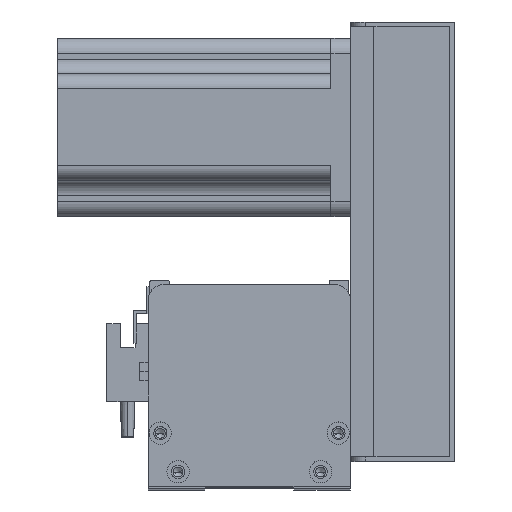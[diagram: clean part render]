
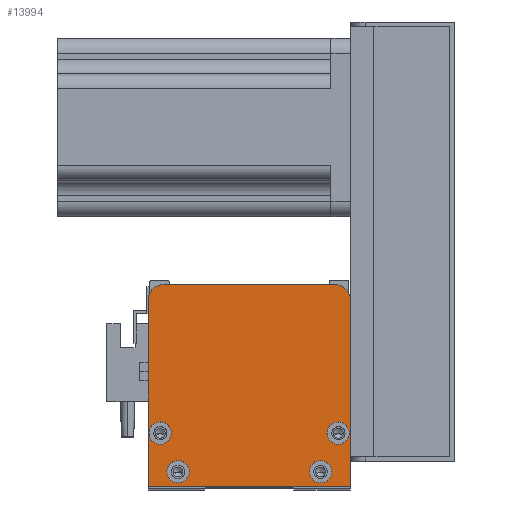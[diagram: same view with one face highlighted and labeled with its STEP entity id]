
A CAD part, top view. The second image highlights one B-rep face of the part: STEP entity #13994.
In plain terms, the highlighted planar face has unit normal (0, 0, 1).
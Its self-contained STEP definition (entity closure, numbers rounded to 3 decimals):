
#251 = AXIS2_PLACEMENT_3D ( 'NONE', #16063, #21825, #4271 ) ;
#494 = EDGE_CURVE ( 'NONE', #2912, #19276, #14405, .T. ) ;
#703 = CARTESIAN_POINT ( 'NONE',  ( 58., 5., 64. ) ) ;
#958 = CARTESIAN_POINT ( 'NONE',  ( 68., 0., 64. ) ) ;
#1011 = VERTEX_POINT ( 'NONE', #16601 ) ;
#1213 = VERTEX_POINT ( 'NONE', #15441 ) ;
#1302 = VERTEX_POINT ( 'NONE', #9667 ) ;
#1611 = ORIENTED_EDGE ( 'NONE', *, *, #8101, .F. ) ;
#1649 = CARTESIAN_POINT ( 'NONE',  ( 60.25, 18., 64. ) ) ;
#2119 = DIRECTION ( 'NONE',  ( 1., 0., 0. ) ) ;
#2391 = CIRCLE ( 'NONE', #251, 3.75 ) ;
#2486 = ORIENTED_EDGE ( 'NONE', *, *, #17549, .T. ) ;
#2894 = AXIS2_PLACEMENT_3D ( 'NONE', #5172, #5249, #9250 ) ;
#2912 = VERTEX_POINT ( 'NONE', #11950 ) ;
#3380 = CARTESIAN_POINT ( 'NONE',  ( 64., 18., 64. ) ) ;
#3615 = AXIS2_PLACEMENT_3D ( 'NONE', #18337, #16499, #10678 ) ;
#3635 = ORIENTED_EDGE ( 'NONE', *, *, #23426, .F. ) ;
#3881 = ORIENTED_EDGE ( 'NONE', *, *, #18605, .F. ) ;
#4271 = DIRECTION ( 'NONE',  ( 1., 0., 0. ) ) ;
#4427 = ORIENTED_EDGE ( 'NONE', *, *, #18276, .T. ) ;
#5085 = DIRECTION ( 'NONE',  ( 0., 0., 1. ) ) ;
#5138 = FACE_BOUND ( 'NONE', #10093, .T. ) ;
#5172 = CARTESIAN_POINT ( 'NONE',  ( 64., 18., 64. ) ) ;
#5249 = DIRECTION ( 'NONE',  ( 0., 0., 1. ) ) ;
#5385 = PLANE ( 'NONE',  #19673 ) ;
#5758 = CIRCLE ( 'NONE', #2894, 3.75 ) ;
#5898 = AXIS2_PLACEMENT_3D ( 'NONE', #15379, #23001, #15464 ) ;
#6065 = AXIS2_PLACEMENT_3D ( 'NONE', #6985, #6824, #12615 ) ;
#6361 = LINE ( 'NONE', #958, #21456 ) ;
#6689 = CARTESIAN_POINT ( 'NONE',  ( 63., 68., 64. ) ) ;
#6824 = DIRECTION ( 'NONE',  ( 0., 0., 1. ) ) ;
#6985 = CARTESIAN_POINT ( 'NONE',  ( 58., 5., 64. ) ) ;
#7075 = EDGE_CURVE ( 'NONE', #10710, #7850, #10830, .T. ) ;
#7183 = CARTESIAN_POINT ( 'NONE',  ( 0., 0., 64. ) ) ;
#7325 = EDGE_LOOP ( 'NONE', ( #15780, #13987 ) ) ;
#7754 = EDGE_LOOP ( 'NONE', ( #1611, #3635 ) ) ;
#7774 = VERTEX_POINT ( 'NONE', #16829 ) ;
#7850 = VERTEX_POINT ( 'NONE', #7183 ) ;
#7861 = FACE_BOUND ( 'NONE', #18867, .T. ) ;
#7961 = EDGE_LOOP ( 'NONE', ( #2486, #4427, #14927, #12471, #10771, #9132 ) ) ;
#8101 = EDGE_CURVE ( 'NONE', #1011, #7774, #12317, .T. ) ;
#8179 = FACE_OUTER_BOUND ( 'NONE', #7961, .T. ) ;
#8183 = AXIS2_PLACEMENT_3D ( 'NONE', #10767, #22468, #12724 ) ;
#8629 = VERTEX_POINT ( 'NONE', #16514 ) ;
#9132 = ORIENTED_EDGE ( 'NONE', *, *, #11800, .T. ) ;
#9250 = DIRECTION ( 'NONE',  ( 1., 0., 0. ) ) ;
#9667 = CARTESIAN_POINT ( 'NONE',  ( 7.75, 18., 64. ) ) ;
#9759 = CARTESIAN_POINT ( 'NONE',  ( 13.75, 5., 64. ) ) ;
#10071 = CARTESIAN_POINT ( 'NONE',  ( 68., 63., 64. ) ) ;
#10093 = EDGE_LOOP ( 'NONE', ( #20380, #3881 ) ) ;
#10314 = AXIS2_PLACEMENT_3D ( 'NONE', #17392, #19683, #2119 ) ;
#10317 = FACE_BOUND ( 'NONE', #7754, .T. ) ;
#10554 = DIRECTION ( 'NONE',  ( 1., 0., 0. ) ) ;
#10678 = DIRECTION ( 'NONE',  ( 1., 0., 0. ) ) ;
#10710 = VERTEX_POINT ( 'NONE', #21627 ) ;
#10767 = CARTESIAN_POINT ( 'NONE',  ( 4., 18., 64. ) ) ;
#10770 = DIRECTION ( 'NONE',  ( 0., 1., 0. ) ) ;
#10771 = ORIENTED_EDGE ( 'NONE', *, *, #494, .T. ) ;
#10830 = LINE ( 'NONE', #15096, #22279 ) ;
#11004 = EDGE_CURVE ( 'NONE', #8629, #20450, #11288, .T. ) ;
#11026 = CARTESIAN_POINT ( 'NONE',  ( 68., 0., 64. ) ) ;
#11288 = CIRCLE ( 'NONE', #3615, 3.75 ) ;
#11349 = VERTEX_POINT ( 'NONE', #13928 ) ;
#11800 = EDGE_CURVE ( 'NONE', #19276, #17000, #13414, .T. ) ;
#11950 = CARTESIAN_POINT ( 'NONE',  ( 68., 0., 64. ) ) ;
#11979 = EDGE_CURVE ( 'NONE', #20450, #8629, #12809, .T. ) ;
#12050 = DIRECTION ( 'NONE',  ( -1., 0., 0. ) ) ;
#12317 = CIRCLE ( 'NONE', #6065, 3.75 ) ;
#12471 = ORIENTED_EDGE ( 'NONE', *, *, #17017, .T. ) ;
#12615 = DIRECTION ( 'NONE',  ( 1., 0., 0. ) ) ;
#12679 = AXIS2_PLACEMENT_3D ( 'NONE', #703, #21991, #10554 ) ;
#12724 = DIRECTION ( 'NONE',  ( 1., 0., 0. ) ) ;
#12809 = CIRCLE ( 'NONE', #5898, 3.75 ) ;
#13414 = CIRCLE ( 'NONE', #10314, 5. ) ;
#13928 = CARTESIAN_POINT ( 'NONE',  ( 5., 68., 64. ) ) ;
#13987 = ORIENTED_EDGE ( 'NONE', *, *, #14273, .F. ) ;
#13994 = ADVANCED_FACE ( 'NONE', ( #5138, #15467, #7861, #10317, #8179 ), #5385, .T. ) ;
#14273 = EDGE_CURVE ( 'NONE', #15642, #1302, #2391, .T. ) ;
#14275 = VECTOR ( 'NONE', #12050, 1000. ) ;
#14405 = LINE ( 'NONE', #11026, #20712 ) ;
#14634 = DIRECTION ( 'NONE',  ( 0., 0., 1. ) ) ;
#14927 = ORIENTED_EDGE ( 'NONE', *, *, #7075, .T. ) ;
#15096 = CARTESIAN_POINT ( 'NONE',  ( 0., 0., 64. ) ) ;
#15379 = CARTESIAN_POINT ( 'NONE',  ( 10., 5., 64. ) ) ;
#15441 = CARTESIAN_POINT ( 'NONE',  ( 67.75, 18., 64. ) ) ;
#15464 = DIRECTION ( 'NONE',  ( 1., 0., 0. ) ) ;
#15467 = FACE_BOUND ( 'NONE', #7325, .T. ) ;
#15642 = VERTEX_POINT ( 'NONE', #19229 ) ;
#15757 = ORIENTED_EDGE ( 'NONE', *, *, #11004, .F. ) ;
#15780 = ORIENTED_EDGE ( 'NONE', *, *, #16163, .F. ) ;
#16030 = CARTESIAN_POINT ( 'NONE',  ( 68., 68., 64. ) ) ;
#16063 = CARTESIAN_POINT ( 'NONE',  ( 4., 18., 64. ) ) ;
#16163 = EDGE_CURVE ( 'NONE', #1302, #15642, #24402, .T. ) ;
#16372 = DIRECTION ( 'NONE',  ( 1., 0., 0. ) ) ;
#16499 = DIRECTION ( 'NONE',  ( 0., 0., 1. ) ) ;
#16514 = CARTESIAN_POINT ( 'NONE',  ( 6.25, 5., 64. ) ) ;
#16601 = CARTESIAN_POINT ( 'NONE',  ( 61.75, 5., 64. ) ) ;
#16829 = CARTESIAN_POINT ( 'NONE',  ( 54.25, 5., 64. ) ) ;
#16898 = CIRCLE ( 'NONE', #18565, 3.75 ) ;
#17000 = VERTEX_POINT ( 'NONE', #6689 ) ;
#17017 = EDGE_CURVE ( 'NONE', #7850, #2912, #6361, .T. ) ;
#17127 = AXIS2_PLACEMENT_3D ( 'NONE', #24271, #14634, #22351 ) ;
#17392 = CARTESIAN_POINT ( 'NONE',  ( 63., 63., 64. ) ) ;
#17549 = EDGE_CURVE ( 'NONE', #17000, #11349, #19352, .T. ) ;
#18276 = EDGE_CURVE ( 'NONE', #11349, #10710, #23241, .T. ) ;
#18337 = CARTESIAN_POINT ( 'NONE',  ( 10., 5., 64. ) ) ;
#18565 = AXIS2_PLACEMENT_3D ( 'NONE', #3380, #5085, #22806 ) ;
#18605 = EDGE_CURVE ( 'NONE', #21726, #1213, #16898, .T. ) ;
#18867 = EDGE_LOOP ( 'NONE', ( #20395, #15757 ) ) ;
#19229 = CARTESIAN_POINT ( 'NONE',  ( 0.25, 18., 64. ) ) ;
#19276 = VERTEX_POINT ( 'NONE', #10071 ) ;
#19352 = LINE ( 'NONE', #16030, #14275 ) ;
#19673 = AXIS2_PLACEMENT_3D ( 'NONE', #22773, #22616, #20845 ) ;
#19683 = DIRECTION ( 'NONE',  ( 0., 0., 1. ) ) ;
#20380 = ORIENTED_EDGE ( 'NONE', *, *, #22992, .F. ) ;
#20395 = ORIENTED_EDGE ( 'NONE', *, *, #11979, .F. ) ;
#20450 = VERTEX_POINT ( 'NONE', #9759 ) ;
#20559 = CIRCLE ( 'NONE', #12679, 3.75 ) ;
#20712 = VECTOR ( 'NONE', #10770, 1000. ) ;
#20845 = DIRECTION ( 'NONE',  ( 1., 0., 0. ) ) ;
#21456 = VECTOR ( 'NONE', #16372, 1000. ) ;
#21627 = CARTESIAN_POINT ( 'NONE',  ( 0., 63., 64. ) ) ;
#21726 = VERTEX_POINT ( 'NONE', #1649 ) ;
#21825 = DIRECTION ( 'NONE',  ( 0., 0., 1. ) ) ;
#21991 = DIRECTION ( 'NONE',  ( 0., 0., 1. ) ) ;
#22279 = VECTOR ( 'NONE', #24477, 1000. ) ;
#22351 = DIRECTION ( 'NONE',  ( 1., 0., 0. ) ) ;
#22468 = DIRECTION ( 'NONE',  ( 0., 0., 1. ) ) ;
#22616 = DIRECTION ( 'NONE',  ( 0., 0., 1. ) ) ;
#22773 = CARTESIAN_POINT ( 'NONE',  ( 0., 0., 64. ) ) ;
#22806 = DIRECTION ( 'NONE',  ( 1., 0., 0. ) ) ;
#22992 = EDGE_CURVE ( 'NONE', #1213, #21726, #5758, .T. ) ;
#23001 = DIRECTION ( 'NONE',  ( 0., 0., 1. ) ) ;
#23241 = CIRCLE ( 'NONE', #17127, 5. ) ;
#23426 = EDGE_CURVE ( 'NONE', #7774, #1011, #20559, .T. ) ;
#24271 = CARTESIAN_POINT ( 'NONE',  ( 5., 63., 64. ) ) ;
#24402 = CIRCLE ( 'NONE', #8183, 3.75 ) ;
#24477 = DIRECTION ( 'NONE',  ( 0., -1., 0. ) ) ;
